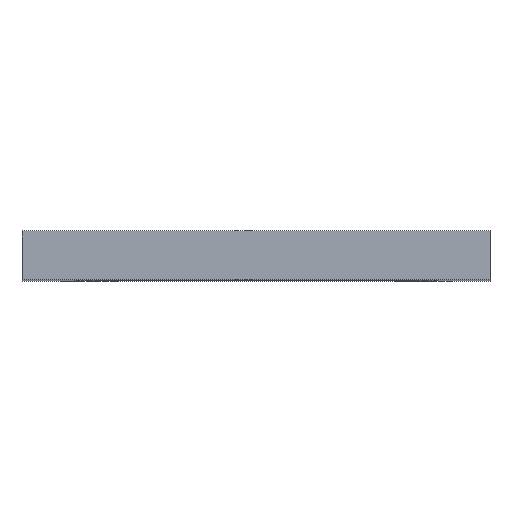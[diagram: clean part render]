
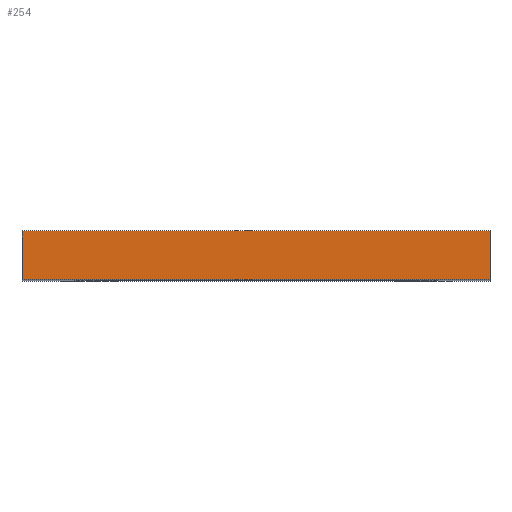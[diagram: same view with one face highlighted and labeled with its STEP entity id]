
A CAD part, top view. The second image highlights one B-rep face of the part: STEP entity #254.
In plain terms, the highlighted planar face has unit normal (0, 0, 1).
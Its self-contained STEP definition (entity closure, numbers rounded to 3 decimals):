
#74 = EDGE_CURVE ( 'NONE', #222, #481, #239, .T. ) ;
#76 = CARTESIAN_POINT ( 'NONE',  ( 0., -2.03, 0. ) ) ;
#109 = EDGE_CURVE ( 'NONE', #481, #1183, #1467, .T. ) ;
#200 = VECTOR ( 'NONE', #545, 1000. ) ;
#222 = VERTEX_POINT ( 'NONE', #1409 ) ;
#229 = VECTOR ( 'NONE', #885, 1000. ) ;
#239 = LINE ( 'NONE', #1361, #1453 ) ;
#247 = CARTESIAN_POINT ( 'NONE',  ( 0., 2.03, 0. ) ) ;
#250 = CARTESIAN_POINT ( 'NONE',  ( 0., 2.03, 0. ) ) ;
#254 = ADVANCED_FACE ( 'NONE', ( #1200 ), #1424, .F. ) ;
#361 = CARTESIAN_POINT ( 'NONE',  ( 0., 2.03, 0. ) ) ;
#371 = LINE ( 'NONE', #361, #1476 ) ;
#372 = DIRECTION ( 'NONE',  ( 0., -1., 0. ) ) ;
#436 = CARTESIAN_POINT ( 'NONE',  ( 0., 2.03, 0. ) ) ;
#454 = ORIENTED_EDGE ( 'NONE', *, *, #1182, .T. ) ;
#481 = VERTEX_POINT ( 'NONE', #756 ) ;
#498 = DIRECTION ( 'NONE',  ( -1., 0., 0. ) ) ;
#545 = DIRECTION ( 'NONE',  ( -1., 0., 0. ) ) ;
#669 = DIRECTION ( 'NONE',  ( 0., -1., 0. ) ) ;
#756 = CARTESIAN_POINT ( 'NONE',  ( 39., -2.03, 0. ) ) ;
#797 = ORIENTED_EDGE ( 'NONE', *, *, #1426, .T. ) ;
#885 = DIRECTION ( 'NONE',  ( -1., 0., 0. ) ) ;
#894 = CARTESIAN_POINT ( 'NONE',  ( 0., -2.03, 0. ) ) ;
#937 = DIRECTION ( 'NONE',  ( 0., 0., -1. ) ) ;
#1001 = ORIENTED_EDGE ( 'NONE', *, *, #109, .F. ) ;
#1114 = EDGE_LOOP ( 'NONE', ( #1185, #454, #797, #1001 ) ) ;
#1182 = EDGE_CURVE ( 'NONE', #222, #1469, #1326, .T. ) ;
#1183 = VERTEX_POINT ( 'NONE', #76 ) ;
#1185 = ORIENTED_EDGE ( 'NONE', *, *, #74, .F. ) ;
#1200 = FACE_OUTER_BOUND ( 'NONE', #1114, .T. ) ;
#1326 = LINE ( 'NONE', #436, #229 ) ;
#1361 = CARTESIAN_POINT ( 'NONE',  ( 39., 2.03, 0. ) ) ;
#1409 = CARTESIAN_POINT ( 'NONE',  ( 39., 2.03, 0. ) ) ;
#1424 = PLANE ( 'NONE',  #1463 ) ;
#1426 = EDGE_CURVE ( 'NONE', #1469, #1183, #371, .T. ) ;
#1453 = VECTOR ( 'NONE', #669, 1000. ) ;
#1463 = AXIS2_PLACEMENT_3D ( 'NONE', #247, #937, #498 ) ;
#1467 = LINE ( 'NONE', #894, #200 ) ;
#1469 = VERTEX_POINT ( 'NONE', #250 ) ;
#1476 = VECTOR ( 'NONE', #372, 1000. ) ;
